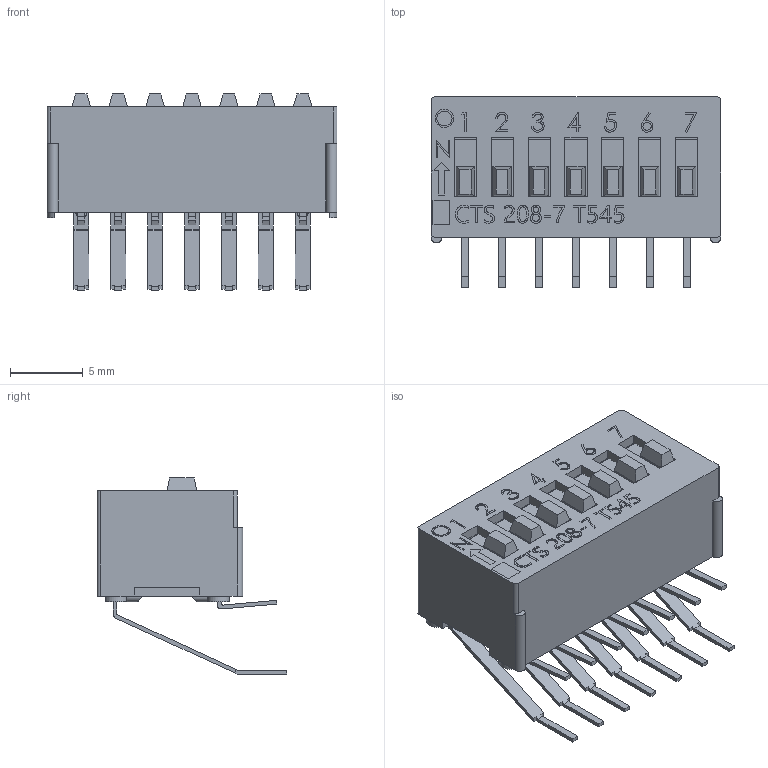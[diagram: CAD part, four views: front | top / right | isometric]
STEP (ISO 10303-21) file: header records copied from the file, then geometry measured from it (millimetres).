
FILE_DESCRIPTION (( 'STEP AP214' ), '1' );
FILE_NAME ('208-7RA.STEP', '2019-05-28T03:01:29', ( '' ), ( '' ), 'SwSTEP 2.0', 'SolidWorks 2019', '' );
FILE_SCHEMA (( 'AUTOMOTIVE_DESIGN' ));
Length unit declared in the file: millimetre
Products named in the file (4): 208-7RA cover; 206007RAS- Base assly; 208-7RA; 206-56-014-35-01
Assembly tree (9 placements, depth 2):
  208-7RA
    208-7RA cover
    206-56-014-35-01  x7
    206007RAS- Base assly
Bounding box: 19.96 x 13.08 x 13.5 mm (x, y, z)
Volume: 877.8 mm3; surface area: 2814.1 mm2
Topology: 9 solids, 9 shells, 801 faces, 2154 edges, 1422 vertices
Faces by surface type: plane 584, bspline 117, cylinder 100
Entity records: 24936 total; most frequent: CARTESIAN_POINT 10608, ORIENTED_EDGE 3096, DIRECTION 2356, EDGE_CURVE 1548, VECTOR 1200, LINE 1200, VERTEX_POINT 1026, EDGE_LOOP 634
